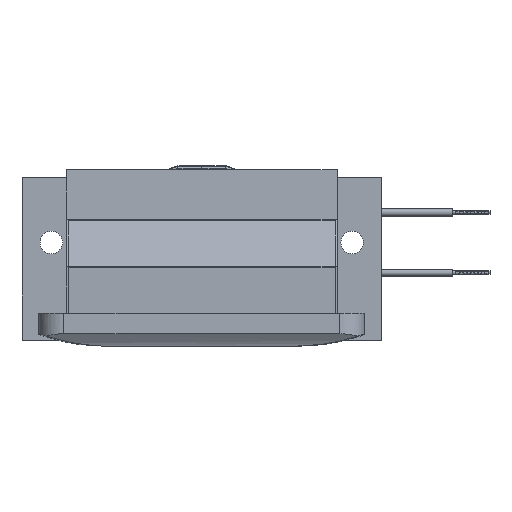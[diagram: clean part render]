
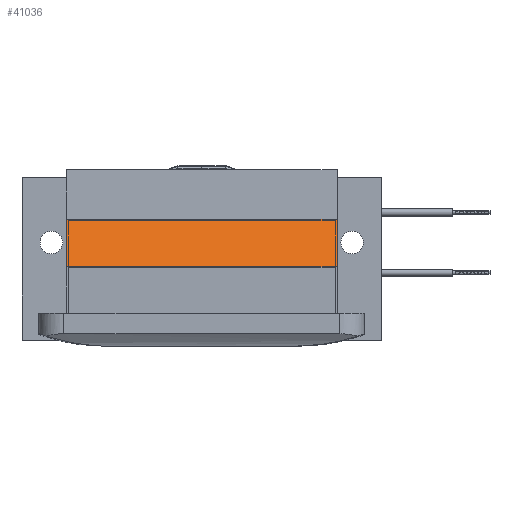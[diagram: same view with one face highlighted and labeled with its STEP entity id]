
A CAD part, top view. The second image highlights one B-rep face of the part: STEP entity #41036.
In plain terms, the highlighted planar face has unit normal (0, 0.438, 0.899) as drawn and (-0.899, 0, -0.438) by its records, which use the part's own axes.
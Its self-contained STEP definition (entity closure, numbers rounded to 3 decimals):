
#4450=LINE('',#79163,#8151);
#4486=LINE('',#79237,#8187);
#4520=LINE('',#79306,#8221);
#4521=LINE('',#79307,#8222);
#8151=VECTOR('',#55548,1000.);
#8187=VECTOR('',#55594,1000.);
#8221=VECTOR('',#55640,1000.);
#8222=VECTOR('',#55641,1000.);
#10262=PLANE('',#46838);
#21544=ORIENTED_EDGE('',*,*,#27712,.F.);
#21545=ORIENTED_EDGE('',*,*,#27746,.F.);
#21546=ORIENTED_EDGE('',*,*,#27674,.T.);
#21547=ORIENTED_EDGE('',*,*,#27747,.T.);
#27674=EDGE_CURVE('',#31716,#31715,#4450,.T.);
#27712=EDGE_CURVE('',#31748,#31749,#4486,.T.);
#27746=EDGE_CURVE('',#31716,#31748,#4520,.T.);
#27747=EDGE_CURVE('',#31715,#31749,#4521,.T.);
#31715=VERTEX_POINT('',#79162);
#31716=VERTEX_POINT('',#79164);
#31748=VERTEX_POINT('',#79236);
#31749=VERTEX_POINT('',#79238);
#35909=EDGE_LOOP('',(#21544,#21545,#21546,#21547));
#38565=FACE_BOUND('',#35909,.T.);
#41036=ADVANCED_FACE('',(#38565),#10262,.T.);
#46838=AXIS2_PLACEMENT_3D('',#79305,#55638,#55639);
#55548=DIRECTION('',(-0.438,0.,0.899));
#55594=DIRECTION('',(-0.438,0.,0.899));
#55638=DIRECTION('',(-0.899,0.,-0.438));
#55639=DIRECTION('',(-0.438,0.,0.899));
#55640=DIRECTION('',(0.,1.,0.));
#55641=DIRECTION('',(0.,1.,0.));
#79162=CARTESIAN_POINT('',(-34.5,-27.,19.4));
#79163=CARTESIAN_POINT('',(-34.5,-27.,19.4));
#79164=CARTESIAN_POINT('',(-29.881,-27.,9.929));
#79236=CARTESIAN_POINT('',(-29.881,27.,9.929));
#79237=CARTESIAN_POINT('',(-34.5,27.,19.4));
#79238=CARTESIAN_POINT('',(-34.5,27.,19.4));
#79305=CARTESIAN_POINT('',(-34.5,-27.,19.4));
#79306=CARTESIAN_POINT('',(-29.881,-27.,9.929));
#79307=CARTESIAN_POINT('',(-34.5,-27.,19.4));
